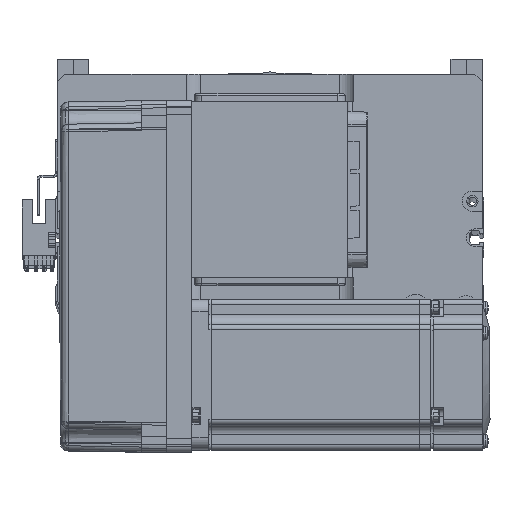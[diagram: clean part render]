
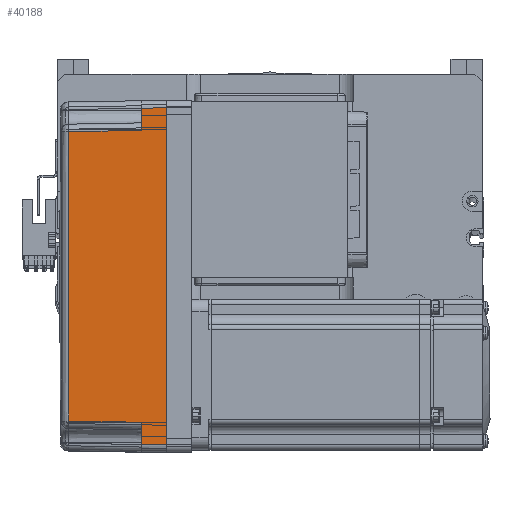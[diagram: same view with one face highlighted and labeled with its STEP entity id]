
A CAD part, top view. The second image highlights one B-rep face of the part: STEP entity #40188.
In plain terms, the highlighted planar face has unit normal (-0.018, 0, 1) as drawn and (0, -1, 0.017) by its records, which use the part's own axes.
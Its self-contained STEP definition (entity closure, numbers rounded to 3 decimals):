
#155 = EDGE_LOOP ( 'NONE', ( #56141, #23554, #58105, #38892, #54523, #52641, #34023, #43174 ) ) ;
#456 = VERTEX_POINT ( 'NONE', #56739 ) ;
#1887 = DIRECTION ( 'NONE',  ( -0.017, 0.017, 1. ) ) ;
#2031 = LINE ( 'NONE', #44693, #8132 ) ;
#4238 = EDGE_CURVE ( 'NONE', #56779, #456, #37712, .T. ) ;
#4417 = EDGE_CURVE ( 'NONE', #57759, #46597, #33089, .T. ) ;
#5799 = EDGE_CURVE ( 'NONE', #57759, #12627, #19935, .T. ) ;
#5866 = FACE_OUTER_BOUND ( 'NONE', #155, .T. ) ;
#5982 = DIRECTION ( 'NONE',  ( -1., 0., 0. ) ) ;
#7012 = CARTESIAN_POINT ( 'NONE',  ( -58., -35.825, 10. ) ) ;
#7671 = PLANE ( 'NONE',  #23009 ) ;
#8132 = VECTOR ( 'NONE', #5982, 1000. ) ;
#8274 = EDGE_CURVE ( 'NONE', #18201, #38810, #21963, .T. ) ;
#9156 = DIRECTION ( 'NONE',  ( -0.017, -0.017, -1. ) ) ;
#10530 = CARTESIAN_POINT ( 'NONE',  ( -67., -36., 0. ) ) ;
#12364 = CARTESIAN_POINT ( 'NONE',  ( 70., -36., 0. ) ) ;
#12627 = VERTEX_POINT ( 'NONE', #10530 ) ;
#12794 = DIRECTION ( 'NONE',  ( 0., -0.017, -1. ) ) ;
#17055 = DIRECTION ( 'NONE',  ( 0., -1., 0.017 ) ) ;
#18000 = EDGE_CURVE ( 'NONE', #12627, #54529, #59531, .T. ) ;
#18201 = VERTEX_POINT ( 'NONE', #42994 ) ;
#18922 = CARTESIAN_POINT ( 'NONE',  ( 58., -35.825, 10. ) ) ;
#19935 = LINE ( 'NONE', #23738, #33686 ) ;
#21963 = LINE ( 'NONE', #32556, #33362 ) ;
#21997 = VECTOR ( 'NONE', #57951, 1000. ) ;
#22891 = DIRECTION ( 'NONE',  ( -1., 0., 0. ) ) ;
#23009 = AXIS2_PLACEMENT_3D ( 'NONE', #12364, #17055, #12794 ) ;
#23554 = ORIENTED_EDGE ( 'NONE', *, *, #60837, .T. ) ;
#23559 = LINE ( 'NONE', #57552, #21997 ) ;
#23738 = CARTESIAN_POINT ( 'NONE',  ( 0., -36., 0. ) ) ;
#24507 = EDGE_CURVE ( 'NONE', #456, #18201, #45985, .T. ) ;
#27323 = CARTESIAN_POINT ( 'NONE',  ( 66.826, -35.825, 10. ) ) ;
#29233 = EDGE_CURVE ( 'NONE', #38810, #54529, #23559, .T. ) ;
#30055 = VECTOR ( 'NONE', #1887, 1000. ) ;
#30268 = CARTESIAN_POINT ( 'NONE',  ( 57.495, -35.32, 38.985 ) ) ;
#32556 = CARTESIAN_POINT ( 'NONE',  ( -57.495, -35.32, 38.985 ) ) ;
#32631 = CARTESIAN_POINT ( 'NONE',  ( -66.826, -35.825, 10. ) ) ;
#33089 = LINE ( 'NONE', #41409, #48321 ) ;
#33362 = VECTOR ( 'NONE', #9156, 1000. ) ;
#33686 = VECTOR ( 'NONE', #22891, 1000. ) ;
#34023 = ORIENTED_EDGE ( 'NONE', *, *, #18000, .F. ) ;
#35393 = CARTESIAN_POINT ( 'NONE',  ( 19.165, -35.316, 39.181 ) ) ;
#35809 = DIRECTION ( 'NONE',  ( 0.017, 0.017, 1. ) ) ;
#37712 = LINE ( 'NONE', #59741, #30055 ) ;
#38810 = VERTEX_POINT ( 'NONE', #7012 ) ;
#38892 = ORIENTED_EDGE ( 'NONE', *, *, #24507, .T. ) ;
#40188 = ADVANCED_FACE ( 'NONE', ( #5866 ), #7671, .T. ) ;
#40237 = CARTESIAN_POINT ( 'NONE',  ( -19.165, -35.316, 39.181 ) ) ;
#41409 = CARTESIAN_POINT ( 'NONE',  ( 67., -36., 0. ) ) ;
#42994 = CARTESIAN_POINT ( 'NONE',  ( -57.495, -35.32, 38.985 ) ) ;
#43174 = ORIENTED_EDGE ( 'NONE', *, *, #5799, .F. ) ;
#44693 = CARTESIAN_POINT ( 'NONE',  ( 70., -35.825, 10. ) ) ;
#45985 = B_SPLINE_CURVE_WITH_KNOTS ( 'NONE', 3,
 ( #30268, #35393, #40237, #51027 ),
 .UNSPECIFIED., .F., .F.,
 ( 4, 4 ),
 ( 0., 1. ),
 .UNSPECIFIED. ) ;
#46597 = VERTEX_POINT ( 'NONE', #27323 ) ;
#48321 = VECTOR ( 'NONE', #51397, 1000. ) ;
#50224 = CARTESIAN_POINT ( 'NONE',  ( -66.959, -35.958, 2.39 ) ) ;
#51027 = CARTESIAN_POINT ( 'NONE',  ( -57.495, -35.32, 38.985 ) ) ;
#51397 = DIRECTION ( 'NONE',  ( -0.017, 0.017, 1. ) ) ;
#52641 = ORIENTED_EDGE ( 'NONE', *, *, #29233, .T. ) ;
#54523 = ORIENTED_EDGE ( 'NONE', *, *, #8274, .T. ) ;
#54529 = VERTEX_POINT ( 'NONE', #32631 ) ;
#55743 = VECTOR ( 'NONE', #35809, 1000. ) ;
#56141 = ORIENTED_EDGE ( 'NONE', *, *, #4417, .T. ) ;
#56739 = CARTESIAN_POINT ( 'NONE',  ( 57.495, -35.32, 38.985 ) ) ;
#56779 = VERTEX_POINT ( 'NONE', #18922 ) ;
#57552 = CARTESIAN_POINT ( 'NONE',  ( 70., -35.825, 10. ) ) ;
#57759 = VERTEX_POINT ( 'NONE', #61592 ) ;
#57951 = DIRECTION ( 'NONE',  ( -1., 0., 0. ) ) ;
#58105 = ORIENTED_EDGE ( 'NONE', *, *, #4238, .T. ) ;
#59531 = LINE ( 'NONE', #50224, #55743 ) ;
#59741 = CARTESIAN_POINT ( 'NONE',  ( 58., -35.825, 10. ) ) ;
#60837 = EDGE_CURVE ( 'NONE', #46597, #56779, #2031, .T. ) ;
#61592 = CARTESIAN_POINT ( 'NONE',  ( 67., -36., 0. ) ) ;
